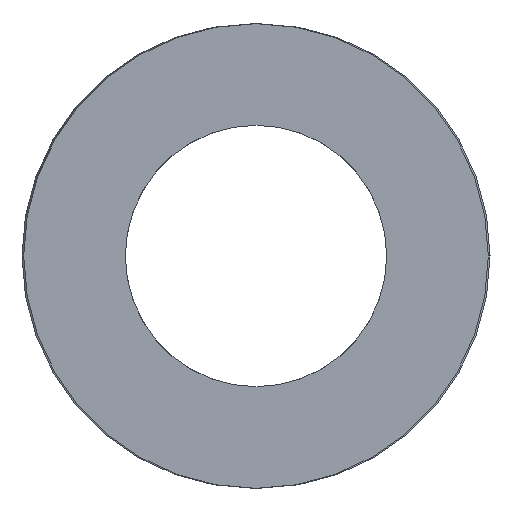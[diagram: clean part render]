
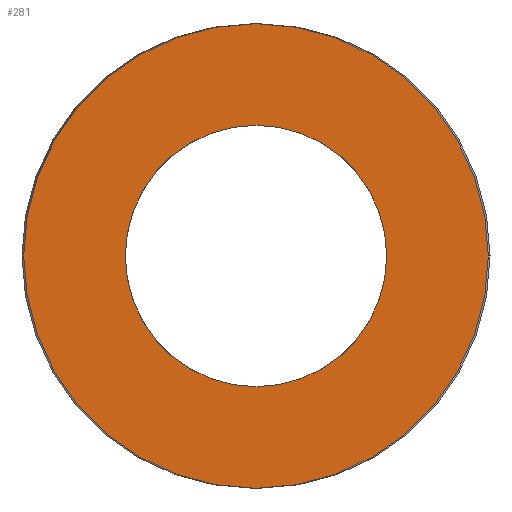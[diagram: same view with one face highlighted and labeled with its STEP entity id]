
A CAD part, left-side view. The second image highlights one B-rep face of the part: STEP entity #281.
In plain terms, the highlighted planar face has unit normal (-1, 0, 0).
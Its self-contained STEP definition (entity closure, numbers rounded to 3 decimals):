
#231 = EDGE_CURVE( '', #491, #521, #641, .T. );
#281 = ADVANCED_FACE( '', ( #698, #699 ), #700, .T. );
#289 = VERTEX_POINT( '', #708 );
#367 = EDGE_CURVE( '', #289, #543, #796, .T. );
#491 = VERTEX_POINT( '', #934 );
#521 = VERTEX_POINT( '', #971 );
#543 = VERTEX_POINT( '', #993 );
#559 = EDGE_CURVE( '', #521, #491, #1013, .T. );
#601 = EDGE_CURVE( '', #543, #289, #1063, .T. );
#641 = CIRCLE( '', #1098, 18.75 );
#698 = FACE_BOUND( '', #1177, .T. );
#699 = FACE_OUTER_BOUND( '', #1178, .T. );
#700 = PLANE( '', #1179 );
#708 = CARTESIAN_POINT( '', ( 0., 0., 10.55 ) );
#796 = CIRCLE( '', #1307, 10.55 );
#934 = CARTESIAN_POINT( '', ( 0., -18.75, 0. ) );
#971 = CARTESIAN_POINT( '', ( 0., 18.75, 0. ) );
#993 = CARTESIAN_POINT( '', ( 0., 0., -10.55 ) );
#1013 = CIRCLE( '', #1570, 18.75 );
#1063 = CIRCLE( '', #1631, 10.55 );
#1098 = AXIS2_PLACEMENT_3D( '', #1667, #1668, #1669 );
#1177 = EDGE_LOOP( '', ( #1752, #1753 ) );
#1178 = EDGE_LOOP( '', ( #1754, #1755 ) );
#1179 = AXIS2_PLACEMENT_3D( '', #1756, #1757, #1758 );
#1307 = AXIS2_PLACEMENT_3D( '', #1853, #1854, #1855 );
#1570 = AXIS2_PLACEMENT_3D( '', #2129, #2130, #2131 );
#1631 = AXIS2_PLACEMENT_3D( '', #2192, #2193, #2194 );
#1667 = CARTESIAN_POINT( '', ( 0., 0., 0. ) );
#1668 = DIRECTION( '', ( -1., 0., 0. ) );
#1669 = DIRECTION( '', ( 0., 1., 0. ) );
#1752 = ORIENTED_EDGE( '', *, *, #601, .T. );
#1753 = ORIENTED_EDGE( '', *, *, #367, .T. );
#1754 = ORIENTED_EDGE( '', *, *, #559, .T. );
#1755 = ORIENTED_EDGE( '', *, *, #231, .T. );
#1756 = CARTESIAN_POINT( '', ( 0., 9.375, 0. ) );
#1757 = DIRECTION( '', ( -1., 0., 0. ) );
#1758 = DIRECTION( '', ( 0., 1., 0. ) );
#1853 = CARTESIAN_POINT( '', ( 0., 0., 0. ) );
#1854 = DIRECTION( '', ( 1., 0., 0. ) );
#1855 = DIRECTION( '', ( 0., 0., -1. ) );
#2129 = CARTESIAN_POINT( '', ( 0., 0., 0. ) );
#2130 = DIRECTION( '', ( -1., 0., 0. ) );
#2131 = DIRECTION( '', ( 0., 1., 0. ) );
#2192 = CARTESIAN_POINT( '', ( 0., 0., 0. ) );
#2193 = DIRECTION( '', ( 1., 0., 0. ) );
#2194 = DIRECTION( '', ( 0., 0., -1. ) );
